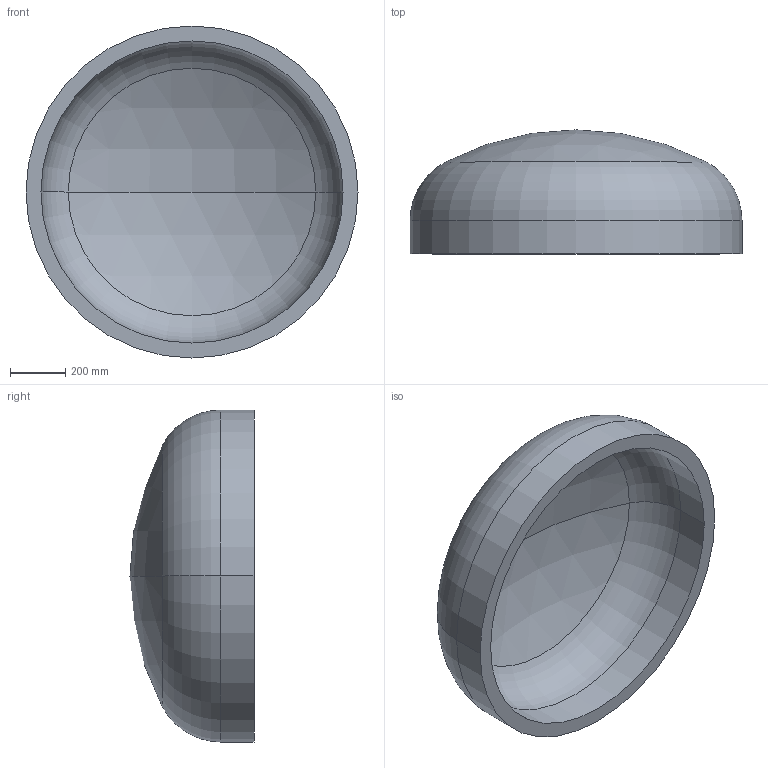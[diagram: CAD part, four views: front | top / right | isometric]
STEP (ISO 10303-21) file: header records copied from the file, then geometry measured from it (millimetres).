
FILE_DESCRIPTION (( 'STEP AP203' ), '1' );
FILE_NAME ('DIN 28013 Korbbogenform_-_Boden DIN 28013 - 1200 x 120 - I - s=54.step', '2016-07-01T09:31:34', ( '' ), ( '' ), 'SwSTEP 2.0', 'SolidWorks 2013', '' );
FILE_SCHEMA (( 'CONFIG_CONTROL_DESIGN' ));
Length unit declared in the file: millimetre
Products named in the file (1): DIN 28013 Korbbogenform_-_Boden DIN 28013 - 1200 x 120 - I - s=54
Bounding box: 1200 x 448.21 x 1200 mm (x, y, z)
Volume: 103160397 mm3; surface area: 4021276.1 mm2
Topology: 1 solids, 1 shells, 13 faces, 24 edges, 14 vertices
Faces by surface type: torus 4, cylinder 4, sphere 4, plane 1
Entity records: 407 total; most frequent: DIRECTION 72, CARTESIAN_POINT 52, ORIENTED_EDGE 48, AXIS2_PLACEMENT_3D 34, EDGE_CURVE 24, CIRCLE 20, EDGE_LOOP 14, VERTEX_POINT 14
